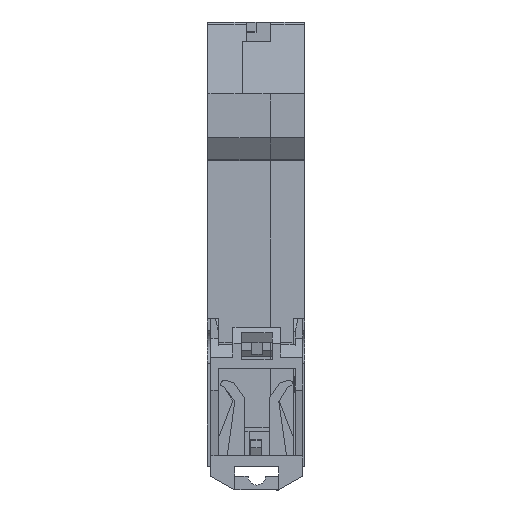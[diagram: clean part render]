
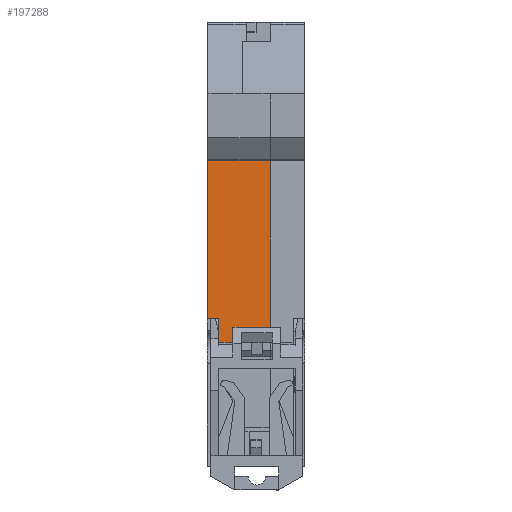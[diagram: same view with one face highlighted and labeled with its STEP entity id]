
A CAD part, left-side view. The second image highlights one B-rep face of the part: STEP entity #197288.
In plain terms, the highlighted planar face has unit normal (-1, 0, 0).
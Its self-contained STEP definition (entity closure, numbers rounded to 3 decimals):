
#2864 = CARTESIAN_POINT ( 'NONE',  ( -2.5, 6.3, 22.6 ) ) ;
#8615 = LINE ( 'NONE', #41722, #128768 ) ;
#20584 = CARTESIAN_POINT ( 'NONE',  ( -2.5, 38.9, 58.1 ) ) ;
#22992 = PLANE ( 'NONE',  #175899 ) ;
#24097 = VERTEX_POINT ( 'NONE', #37820 ) ;
#34996 = EDGE_CURVE ( 'NONE', #24097, #185263, #69708, .T. ) ;
#37820 = CARTESIAN_POINT ( 'NONE',  ( -2.5, 15.65, 22.6 ) ) ;
#41722 = CARTESIAN_POINT ( 'NONE',  ( -2.5, 17.8, 58.1 ) ) ;
#43334 = EDGE_CURVE ( 'NONE', #148099, #178532, #213205, .T. ) ;
#43496 = CARTESIAN_POINT ( 'NONE',  ( -2.5, 17.8, 58.1 ) ) ;
#44502 = VERTEX_POINT ( 'NONE', #156259 ) ;
#52195 = CARTESIAN_POINT ( 'NONE',  ( -2.5, 15.65, 26.9 ) ) ;
#60079 = DIRECTION ( 'NONE',  ( 0., 0., -1. ) ) ;
#68902 = DIRECTION ( 'NONE',  ( 0., -1., 0. ) ) ;
#69708 = LINE ( 'NONE', #207308, #215046 ) ;
#72978 = VECTOR ( 'NONE', #68902, 1000. ) ;
#73402 = ORIENTED_EDGE ( 'NONE', *, *, #43334, .T. ) ;
#89676 = ORIENTED_EDGE ( 'NONE', *, *, #34996, .T. ) ;
#95338 = CARTESIAN_POINT ( 'NONE',  ( -2.5, 6.3, 58.1 ) ) ;
#113401 = DIRECTION ( 'NONE',  ( 0., 0., 1. ) ) ;
#128768 = VECTOR ( 'NONE', #60079, 1000. ) ;
#129546 = FACE_OUTER_BOUND ( 'NONE', #214311, .T. ) ;
#137404 = DIRECTION ( 'NONE',  ( 0., -1., 0. ) ) ;
#145331 = CARTESIAN_POINT ( 'NONE',  ( -2.5, 17.8, 26.9 ) ) ;
#148099 = VERTEX_POINT ( 'NONE', #145331 ) ;
#151461 = DIRECTION ( 'NONE',  ( 0., 0., 1. ) ) ;
#156259 = CARTESIAN_POINT ( 'NONE',  ( -2.5, 17.8, 58.1 ) ) ;
#157358 = EDGE_CURVE ( 'NONE', #185263, #176994, #185849, .T. ) ;
#161122 = VECTOR ( 'NONE', #163426, 1000. ) ;
#163426 = DIRECTION ( 'NONE',  ( 0., 0., -1. ) ) ;
#171951 = EDGE_CURVE ( 'NONE', #44502, #148099, #8615, .T. ) ;
#172153 = DIRECTION ( 'NONE',  ( 0., 1., 0. ) ) ;
#175899 = AXIS2_PLACEMENT_3D ( 'NONE', #43496, #181057, #113401 ) ;
#176532 = VECTOR ( 'NONE', #151461, 1000. ) ;
#176994 = VERTEX_POINT ( 'NONE', #188570 ) ;
#178532 = VERTEX_POINT ( 'NONE', #52195 ) ;
#181057 = DIRECTION ( 'NONE',  ( 1., 0., 0. ) ) ;
#181714 = EDGE_CURVE ( 'NONE', #178532, #24097, #182961, .T. ) ;
#182961 = LINE ( 'NONE', #215059, #161122 ) ;
#185263 = VERTEX_POINT ( 'NONE', #2864 ) ;
#185849 = LINE ( 'NONE', #95338, #176532 ) ;
#187154 = EDGE_CURVE ( 'NONE', #176994, #44502, #225937, .T. ) ;
#188549 = ORIENTED_EDGE ( 'NONE', *, *, #157358, .T. ) ;
#188570 = CARTESIAN_POINT ( 'NONE',  ( -2.5, 6.3, 58.1 ) ) ;
#191726 = ORIENTED_EDGE ( 'NONE', *, *, #187154, .T. ) ;
#193770 = CARTESIAN_POINT ( 'NONE',  ( -2.5, 17.8, 26.9 ) ) ;
#197288 = ADVANCED_FACE ( 'NONE', ( #129546 ), #22992, .F. ) ;
#207308 = CARTESIAN_POINT ( 'NONE',  ( -2.5, 17.8, 22.6 ) ) ;
#213205 = LINE ( 'NONE', #193770, #72978 ) ;
#214311 = EDGE_LOOP ( 'NONE', ( #73402, #225854, #89676, #188549, #191726, #217484 ) ) ;
#215046 = VECTOR ( 'NONE', #137404, 1000. ) ;
#215059 = CARTESIAN_POINT ( 'NONE',  ( -2.5, 15.65, 58.1 ) ) ;
#217484 = ORIENTED_EDGE ( 'NONE', *, *, #171951, .T. ) ;
#220123 = VECTOR ( 'NONE', #172153, 1000. ) ;
#225854 = ORIENTED_EDGE ( 'NONE', *, *, #181714, .T. ) ;
#225937 = LINE ( 'NONE', #20584, #220123 ) ;
